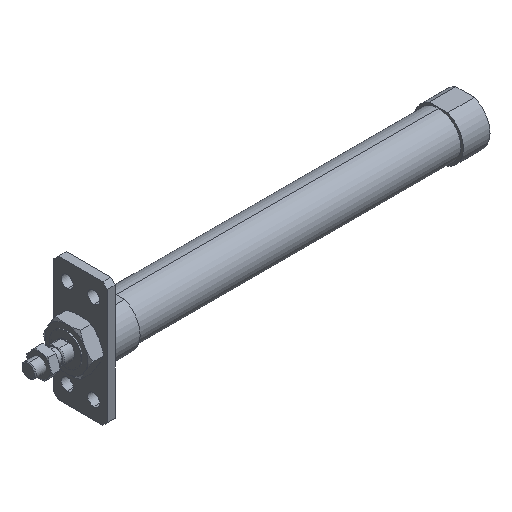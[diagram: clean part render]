
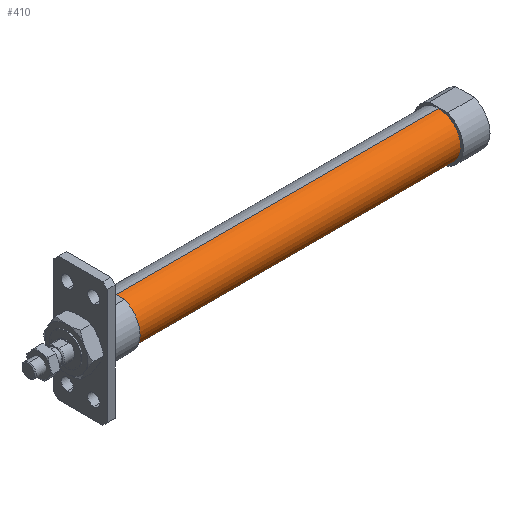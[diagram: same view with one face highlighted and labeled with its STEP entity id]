
A CAD part, isometric view. The second image highlights one B-rep face of the part: STEP entity #410.
In plain terms, the highlighted cylindrical face has radius 12.5 mm (diameter 25 mm), a partial arc.
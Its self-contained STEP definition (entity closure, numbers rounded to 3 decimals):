
#52 = DIRECTION ( 'NONE',  ( -1., 0., 0. ) ) ;
#407 = EDGE_CURVE ( 'NONE', #2666, #3354, #2456, .T. ) ;
#410 = ADVANCED_FACE ( 'NONE', ( #2237 ), #3429, .T. ) ;
#471 = ORIENTED_EDGE ( 'NONE', *, *, #943, .T. ) ;
#615 = CIRCLE ( 'NONE', #1044, 12.5 ) ;
#616 = DIRECTION ( 'NONE',  ( 0., 0., 1. ) ) ;
#755 = LINE ( 'NONE', #1146, #1632 ) ;
#766 = DIRECTION ( 'NONE',  ( 0., 0., 1. ) ) ;
#844 = CARTESIAN_POINT ( 'NONE',  ( 231., 0., 12.5 ) ) ;
#904 = ORIENTED_EDGE ( 'NONE', *, *, #2654, .T. ) ;
#943 = EDGE_CURVE ( 'NONE', #1399, #3147, #615, .T. ) ;
#1044 = AXIS2_PLACEMENT_3D ( 'NONE', #2408, #52, #616 ) ;
#1103 = CARTESIAN_POINT ( 'NONE',  ( 49., 0., -12.5 ) ) ;
#1146 = CARTESIAN_POINT ( 'NONE',  ( -6.469, 0., -12.5 ) ) ;
#1243 = DIRECTION ( 'NONE',  ( 0., 0., 1. ) ) ;
#1319 = VECTOR ( 'NONE', #1694, 1000. ) ;
#1399 = VERTEX_POINT ( 'NONE', #1799 ) ;
#1448 = DIRECTION ( 'NONE',  ( -1., 0., 0. ) ) ;
#1514 = EDGE_LOOP ( 'NONE', ( #1717, #471, #904, #3779 ) ) ;
#1632 = VECTOR ( 'NONE', #1448, 1000. ) ;
#1694 = DIRECTION ( 'NONE',  ( -1., 0., 0. ) ) ;
#1717 = ORIENTED_EDGE ( 'NONE', *, *, #3155, .F. ) ;
#1735 = AXIS2_PLACEMENT_3D ( 'NONE', #3705, #1933, #766 ) ;
#1799 = CARTESIAN_POINT ( 'NONE',  ( 231., 0., -12.5 ) ) ;
#1933 = DIRECTION ( 'NONE',  ( -1., 0., 0. ) ) ;
#1999 = CARTESIAN_POINT ( 'NONE',  ( -6.469, 0., 12.5 ) ) ;
#2237 = FACE_OUTER_BOUND ( 'NONE', #1514, .T. ) ;
#2408 = CARTESIAN_POINT ( 'NONE',  ( 231., 0., 0. ) ) ;
#2449 = LINE ( 'NONE', #1999, #1319 ) ;
#2456 = CIRCLE ( 'NONE', #3187, 12.5 ) ;
#2654 = EDGE_CURVE ( 'NONE', #3147, #3354, #2449, .T. ) ;
#2666 = VERTEX_POINT ( 'NONE', #1103 ) ;
#3032 = DIRECTION ( 'NONE',  ( -1., 0., 0. ) ) ;
#3061 = CARTESIAN_POINT ( 'NONE',  ( 49., 0., 0. ) ) ;
#3143 = CARTESIAN_POINT ( 'NONE',  ( 49., 0., 12.5 ) ) ;
#3147 = VERTEX_POINT ( 'NONE', #844 ) ;
#3155 = EDGE_CURVE ( 'NONE', #1399, #2666, #755, .T. ) ;
#3187 = AXIS2_PLACEMENT_3D ( 'NONE', #3061, #3032, #1243 ) ;
#3354 = VERTEX_POINT ( 'NONE', #3143 ) ;
#3429 = CYLINDRICAL_SURFACE ( 'NONE', #1735, 12.5 ) ;
#3705 = CARTESIAN_POINT ( 'NONE',  ( -6.469, 0., 0. ) ) ;
#3779 = ORIENTED_EDGE ( 'NONE', *, *, #407, .F. ) ;
